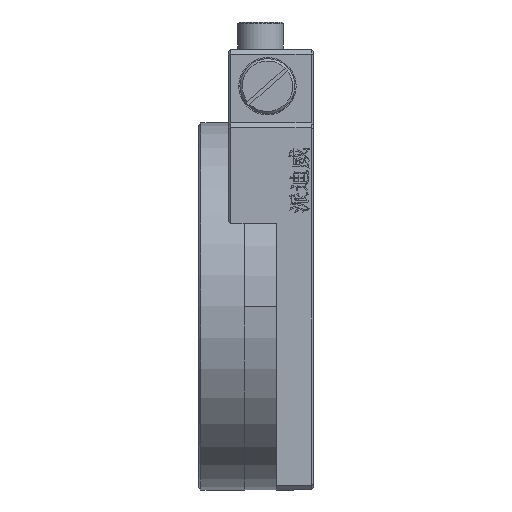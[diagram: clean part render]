
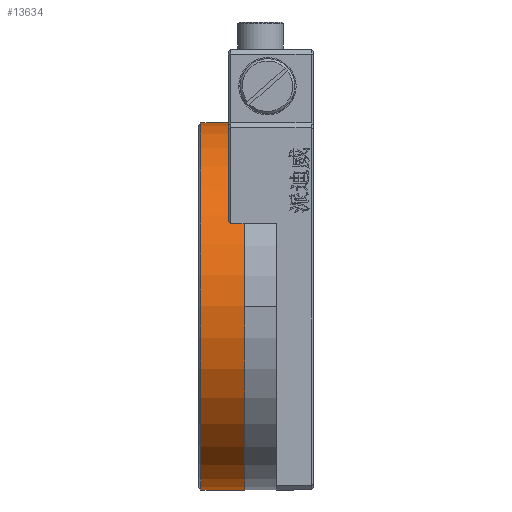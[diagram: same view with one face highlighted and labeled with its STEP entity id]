
A CAD part, left-side view. The second image highlights one B-rep face of the part: STEP entity #13634.
In plain terms, the highlighted cylindrical face has radius 40 mm (diameter 80 mm), a partial arc.
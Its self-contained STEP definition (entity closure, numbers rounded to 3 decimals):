
#1111 = CARTESIAN_POINT ( 'NONE',  ( 11.219, 17.359, 43.216 ) ) ;
#1129 = AXIS2_PLACEMENT_3D ( 'NONE', #1111, #5487, #22062 ) ;
#1388 = VECTOR ( 'NONE', #3129, 1000. ) ;
#2698 = LINE ( 'NONE', #2954, #1388 ) ;
#2954 = CARTESIAN_POINT ( 'NONE',  ( 11.219, 17.359, 3.216 ) ) ;
#3129 = DIRECTION ( 'NONE',  ( 0., 1., 0. ) ) ;
#3145 = VERTEX_POINT ( 'NONE', #9550 ) ;
#3657 = VECTOR ( 'NONE', #17361, 1000. ) ;
#5487 = DIRECTION ( 'NONE',  ( 0., 1., 0. ) ) ;
#6276 = DIRECTION ( 'NONE',  ( 0., 0., -1. ) ) ;
#7508 = FACE_OUTER_BOUND ( 'NONE', #19558, .T. ) ;
#8292 = CARTESIAN_POINT ( 'NONE',  ( 11.219, 17.359, 43.216 ) ) ;
#9190 = LINE ( 'NONE', #9786, #3657 ) ;
#9550 = CARTESIAN_POINT ( 'NONE',  ( 11.219, 26.859, 3.216 ) ) ;
#9786 = CARTESIAN_POINT ( 'NONE',  ( 11.219, 17.359, 83.216 ) ) ;
#10286 = DIRECTION ( 'NONE',  ( 0., 0., 1. ) ) ;
#12073 = ORIENTED_EDGE ( 'NONE', *, *, #25724, .F. ) ;
#12414 = CARTESIAN_POINT ( 'NONE',  ( 11.219, 17.359, 3.216 ) ) ;
#13634 = ADVANCED_FACE ( 'NONE', ( #7508 ), #20573, .T. ) ;
#14593 = CARTESIAN_POINT ( 'NONE',  ( 11.219, 26.859, 43.216 ) ) ;
#16372 = ORIENTED_EDGE ( 'NONE', *, *, #23301, .T. ) ;
#16550 = CIRCLE ( 'NONE', #26936, 40. ) ;
#16555 = AXIS2_PLACEMENT_3D ( 'NONE', #14593, #18773, #6276 ) ;
#17361 = DIRECTION ( 'NONE',  ( 0., 1., 0. ) ) ;
#17391 = CARTESIAN_POINT ( 'NONE',  ( 11.219, 17.359, 83.216 ) ) ;
#18402 = CIRCLE ( 'NONE', #16555, 40. ) ;
#18675 = DIRECTION ( 'NONE',  ( 0., 1., 0. ) ) ;
#18773 = DIRECTION ( 'NONE',  ( 0., 1., 0. ) ) ;
#19558 = EDGE_LOOP ( 'NONE', ( #12073, #16372, #23621, #19658 ) ) ;
#19658 = ORIENTED_EDGE ( 'NONE', *, *, #24878, .F. ) ;
#20573 = CYLINDRICAL_SURFACE ( 'NONE', #1129, 40. ) ;
#20645 = VERTEX_POINT ( 'NONE', #12414 ) ;
#22062 = DIRECTION ( 'NONE',  ( 0., 0., 1. ) ) ;
#23301 = EDGE_CURVE ( 'NONE', #20645, #25174, #16550, .T. ) ;
#23621 = ORIENTED_EDGE ( 'NONE', *, *, #25943, .T. ) ;
#23634 = CARTESIAN_POINT ( 'NONE',  ( 11.219, 26.859, 83.216 ) ) ;
#24878 = EDGE_CURVE ( 'NONE', #3145, #25690, #18402, .T. ) ;
#25174 = VERTEX_POINT ( 'NONE', #17391 ) ;
#25690 = VERTEX_POINT ( 'NONE', #23634 ) ;
#25724 = EDGE_CURVE ( 'NONE', #20645, #3145, #2698, .T. ) ;
#25943 = EDGE_CURVE ( 'NONE', #25174, #25690, #9190, .T. ) ;
#26936 = AXIS2_PLACEMENT_3D ( 'NONE', #8292, #18675, #10286 ) ;
